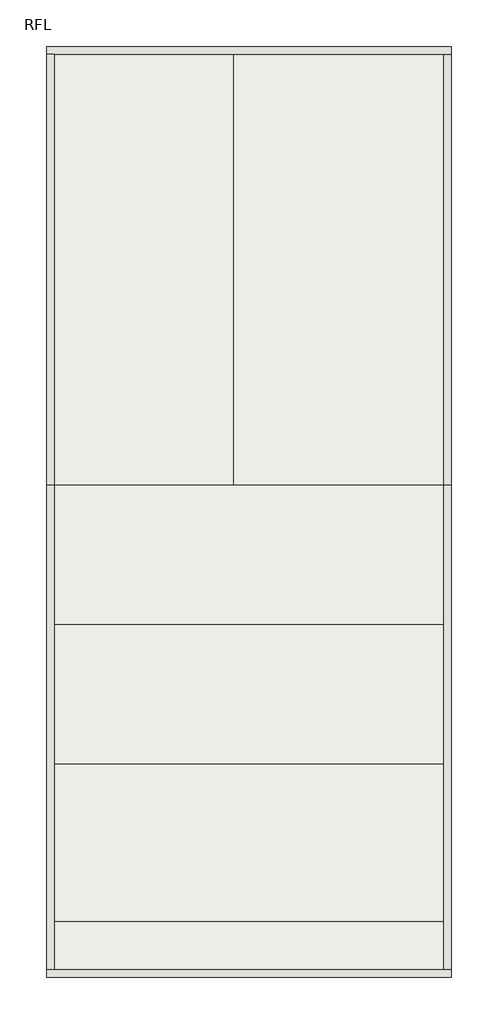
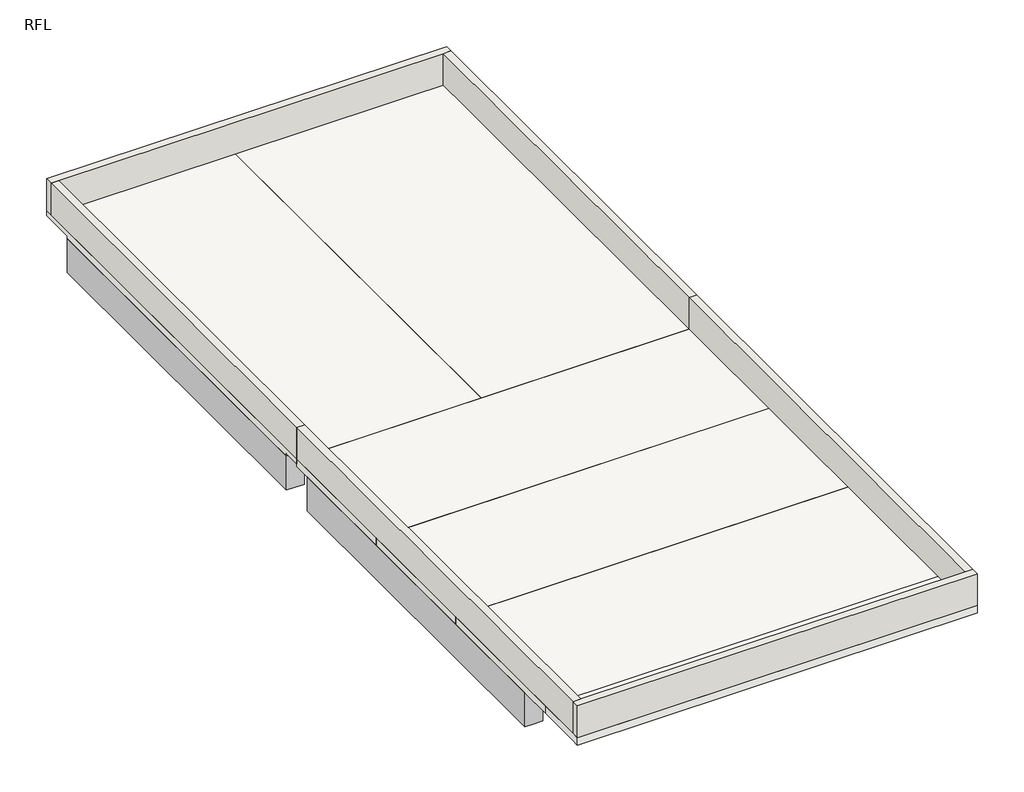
# One storey: 10 beams, 6 slabs, 6 walls.
"""IFC4 building model written with IfcOpenShell, lengths in millimetres."""

from ifc_helpers import new_model, si_unit, frame, origin, place, context, project, spatial, polyline, outline, extrude, faceted_brep, element, save

model = new_model("IFC4")

# Units and contexts
model_context = context("Model", 3, world=origin())
ifc_project = project(units=[si_unit("LENGTHUNIT", "METRE", prefix="MILLI")], contexts=[model_context])

# Site, building, storey
site = spatial("IfcSite", under=ifc_project)
building = spatial("IfcBuilding", under=site)
storey = spatial("IfcBuildingStorey", under=building, Name="RFL", Elevation=20750.0)

# Beams
placement = place(None, origin())
element("IfcBeam", 1, ObjectType="RC_B : 6G1", at=placement, inside=storey, context=model_context, shape_type="Brep", body=[
    faceted_brep([(31700.0, 24400.0, 20600.0), (31700.0, 24400.0, 19900.0), (25350.0, 24400.0, 19900.0), (25350.0, 24400.0, 20650.0), (28221.0, 24400.0, 20650.0), (28221.0, 24400.0, 20600.0), (31700.0, 24250.0, 19900.0), (31700.0, 24050.0, 19900.0), (28396.0, 24050.0, 19900.0), (28046.0, 24050.0, 19900.0), (25350.0, 24050.0, 19900.0), (25350.0, 24250.0, 19900.0), (31700.0, 24050.0, 20600.0), (28396.0, 24050.0, 20600.0), (28221.0, 24050.0, 20600.0), (28221.0, 24050.0, 20650.0), (28046.0, 24050.0, 20650.0), (25350.0, 24050.0, 20650.0), (25350.0, 24050.0, 20600.0)], [[[0, 1, 2, 3, 4, 5]], [[1, 6, 7, 8, 9, 10, 11, 2]], [[7, 12, 13, 14, 15, 16, 17, 18, 10, 9, 8]], [[15, 4, 3, 17, 16]], [[7, 6, 1, 0, 12]], [[5, 14, 13, 12, 0]], [[14, 5, 4, 15]], [[3, 2, 11, 10, 18, 17]]]),
])
element("IfcBeam", 2, ObjectType="RC_B : 6G11", at=placement, inside=storey, context=model_context, shape_type="Brep", body=[
    faceted_brep([(32050.0, 23700.0, 20600.0), (32050.0, 23700.0, 19900.0), (32050.0, 16350.0, 19900.0), (32050.0, 16350.0, 20600.0), (32250.0, 23700.0, 19900.0), (32400.0, 23700.0, 19900.0), (32400.0, 16350.0, 19900.0), (32250.0, 16350.0, 19900.0), (32400.0, 23700.0, 20600.0), (32400.0, 16350.0, 20600.0)], [[[0, 1, 2, 3]], [[1, 4, 5, 6, 7, 2]], [[5, 8, 9, 6]], [[5, 4, 1, 0, 8]], [[8, 0, 3, 9]], [[3, 2, 7, 6, 9]]]),
])
element("IfcBeam", 3, ObjectType="RC_B : 6G11", at=placement, inside=storey, context=model_context, shape_type="Brep", body=[
    faceted_brep([(32050.0, 16000.0, 19900.0), (32050.0, 15650.0, 19900.0), (32050.0, 13675.0, 19900.0), (32050.0, 13325.0, 19900.0), (32050.0, 10925.0, 19900.0), (32050.0, 10575.0, 19900.0), (32050.0, 8350.0, 19900.0), (32050.0, 8000.0, 19900.0), (32050.0, 8000.0, 20600.0), (32050.0, 8350.0, 20600.0), (32050.0, 10575.0, 20600.0), (32050.0, 10925.0, 20600.0), (32050.0, 13325.0, 20600.0), (32050.0, 13675.0, 20600.0), (32050.0, 15650.0, 20600.0), (32050.0, 16000.0, 20600.0), (32400.0, 16000.0, 19900.0), (32400.0, 15650.0, 19900.0), (32400.0, 8350.0, 19900.0), (32400.0, 8000.0, 19900.0), (32400.0, 16000.0, 20600.0), (32400.0, 13328.0, 20600.0), (32400.0, 10664.0, 20600.0), (32400.0, 8000.0, 20600.0)], [[[0, 1, 2, 3, 4, 5, 6, 7, 8, 9, 10, 11, 12, 13, 14, 15]], [[7, 6, 5, 4, 3, 2, 1, 0, 16, 17, 18, 19]], [[19, 18, 17, 16, 20, 21, 22, 23]], [[16, 0, 15, 20]], [[7, 19, 23, 8]], [[8, 23, 22, 21, 20, 15, 14, 13, 12, 11, 10, 9]]]),
])
element("IfcBeam", 4, ObjectType="RC_B : 6G12", at=placement, inside=storey, context=model_context, shape_type="Brep", body=[
    faceted_brep([(24650.0, 23700.0, 20600.0), (24650.0, 23700.0, 19900.0), (24650.0, 16350.0, 19900.0), (24650.0, 16350.0, 20600.0), (24800.0, 23700.0, 19900.0), (25000.0, 23700.0, 19900.0), (25000.0, 16350.0, 19900.0), (24800.0, 16350.0, 19900.0), (25000.0, 23700.0, 20600.0), (25000.0, 16350.0, 20600.0)], [[[0, 1, 2, 3]], [[1, 4, 5, 6, 7, 2]], [[5, 8, 9, 6]], [[5, 4, 1, 0, 8]], [[8, 0, 3, 9]], [[3, 2, 7, 6, 9]]]),
])
element("IfcBeam", 5, ObjectType="RC_B : 6G12", at=placement, inside=storey, context=model_context, shape_type="Brep", body=[
    faceted_brep([(24650.0, 15650.0, 20600.0), (24650.0, 15650.0, 19900.0), (24650.0, 8350.0, 19900.0), (24650.0, 8350.0, 20600.0), (24650.0, 10664.0, 20600.0), (24650.0, 13328.0, 20600.0), (24800.0, 15650.0, 19900.0), (25000.0, 15650.0, 19900.0), (25000.0, 13675.0, 19900.0), (25000.0, 13325.0, 19900.0), (25000.0, 10925.0, 19900.0), (25000.0, 10575.0, 19900.0), (25000.0, 8350.0, 19900.0), (24800.0, 8350.0, 19900.0), (25000.0, 15650.0, 20600.0), (25000.0, 13675.0, 20600.0), (25000.0, 13325.0, 20600.0), (25000.0, 10925.0, 20600.0), (25000.0, 10575.0, 20600.0), (25000.0, 8350.0, 20600.0)], [[[0, 1, 2, 3, 4, 5]], [[1, 6, 7, 8, 9, 10, 11, 12, 13, 2]], [[7, 14, 15, 16, 17, 18, 19, 12, 11, 10, 9, 8]], [[7, 6, 1, 0, 14]], [[14, 0, 5, 4, 3, 19, 18, 17, 16, 15]], [[3, 2, 13, 12, 19]]]),
])
element("IfcBeam", 6, ObjectType="RC_B : 6G2", at=placement, inside=storey, context=model_context, shape_type="Brep", body=[
    faceted_brep([(25350.0, 16175.0, 19900.0), (25350.0, 16175.0, 20600.0), (28046.0, 16175.0, 20600.0), (28046.0, 16175.0, 19900.0), (31700.0, 16175.0, 19900.0), (31700.0, 15825.0, 19900.0), (25350.0, 15825.0, 19900.0), (28046.0, 15925.0, 19900.0), (28396.0, 15925.0, 19900.0), (28396.0, 16175.0, 19900.0), (31700.0, 15825.0, 20600.0), (25350.0, 15825.0, 20600.0), (31700.0, 16175.0, 20600.0), (31700.0, 16000.0, 20600.0), (28396.0, 16175.0, 20600.0), (28396.0, 15925.0, 20600.0), (28046.0, 15925.0, 20600.0), (28046.0, 16000.0, 20600.0), (25350.0, 16000.0, 20600.0)], [[[0, 1, 2, 3]], [[4, 5, 6, 0, 3, 7, 8, 9]], [[5, 10, 11, 6]], [[5, 4, 12, 13, 10]], [[10, 13, 12, 14, 15, 16, 17, 2, 1, 18, 11]], [[1, 0, 6, 11, 18]], [[16, 7, 3, 2, 17]], [[8, 15, 14, 9]], [[7, 16, 15, 8]], [[12, 4, 9, 14]]]),
])
element("IfcBeam", 7, ObjectType="RC_B : 6G2", at=placement, inside=storey, context=model_context, shape_type="SweptSolid", body=[
    extrude(outline(polyline([(31700.0, 8000.0), (31700.0, 7650.0), (25350.0, 7650.0), (25350.0, 8000.0), (31700.0, 8000.0)])), frame((0.0, 0.0, 19900.0), z_axis=(0.0, 0.0, 1.0), x_axis=(1.0, 0.0, 0.0)), (0.0, 0.0, 1.0), 700.0),
])
element("IfcBeam", 8, ObjectType="RC_B : B1", at=placement, inside=storey, context=model_context, shape_type="SweptSolid", body=[
    extrude(outline(polyline([(25000.0, 10575.0), (25000.0, 10925.0), (32050.0, 10925.0), (32050.0, 10575.0), (25000.0, 10575.0)])), frame((0.0, 0.0, 19900.0), z_axis=(0.0, 0.0, 1.0), x_axis=(1.0, 0.0, 0.0)), (0.0, 0.0, 1.0), 700.0),
])
element("IfcBeam", 9, ObjectType="RC_B : B1", at=placement, inside=storey, context=model_context, shape_type="SweptSolid", body=[
    extrude(outline(polyline([(25000.0, 13325.0), (25000.0, 13675.0), (32050.0, 13675.0), (32050.0, 13325.0), (25000.0, 13325.0)])), frame((0.0, 0.0, 19900.0), z_axis=(0.0, 0.0, 1.0), x_axis=(1.0, 0.0, 0.0)), (0.0, 0.0, 1.0), 700.0),
])
element("IfcBeam", 10, ObjectType="RC_B : B4", at=placement, inside=storey, context=model_context, shape_type="Brep", body=[
    faceted_brep([(28046.0, 24050.0, 20650.0), (28046.0, 24050.0, 20600.0), (28046.0, 24050.0, 19900.0), (28046.0, 16175.0, 19900.0), (28046.0, 15925.0, 19900.0), (28046.0, 15925.0, 20600.0), (28046.0, 16000.0, 20600.0), (28046.0, 16000.0, 20650.0), (28396.0, 15925.0, 19900.0), (28396.0, 24050.0, 19900.0), (28396.0, 16175.0, 19900.0), (28396.0, 24050.0, 20600.0), (28396.0, 16175.0, 20600.0), (28396.0, 15925.0, 20600.0), (28221.0, 16000.0, 20650.0), (28221.0, 24050.0, 20650.0), (28221.0, 24050.0, 20600.0), (28221.0, 16000.0, 20600.0)], [[[0, 1, 2, 3, 4, 5, 6, 7]], [[8, 4, 3, 2, 9, 10]], [[11, 12, 13, 8, 10, 9]], [[14, 15, 0, 7]], [[4, 8, 13, 5]], [[2, 1, 0, 15, 16, 11, 9]], [[16, 17, 6, 5, 13, 12, 11]], [[17, 16, 15, 14]], [[6, 17, 14, 7]]]),
])

# Slabs
element("IfcSlab", 11, ObjectType="CS1", at=placement, inside=storey, context=model_context, shape_type="Brep", body=[
    faceted_brep([(32400.0, 6580.0, 20600.0), (24650.0, 6580.0, 20600.0), (24650.0, 6730.0, 20600.0), (24650.0, 7650.0, 20600.0), (24800.0, 7650.0, 20600.0), (32250.0, 7650.0, 20600.0), (32400.0, 7650.0, 20600.0), (32400.0, 6730.0, 20600.0), (32400.0, 6580.0, 20750.0), (32400.0, 6730.0, 20750.0), (32400.0, 7650.0, 20750.0), (24650.0, 7650.0, 20750.0), (24650.0, 6730.0, 20750.0), (24650.0, 6580.0, 20750.0)], [[[0, 1, 2, 3, 4, 5, 6, 7]], [[8, 9, 10, 11, 12, 13]], [[1, 0, 8, 13]], [[3, 2, 1, 13, 12, 11]], [[6, 5, 4, 3, 11, 10]], [[0, 7, 6, 10, 9, 8]]]),
])
element("IfcSlab", 12, ObjectType="S2", at=placement, inside=storey, context=model_context, shape_type="Brep", body=[
    faceted_brep([(25350.0, 16000.0, 20600.0), (25350.0, 16175.0, 20600.0), (25350.0, 16350.0, 20600.0), (25000.0, 16350.0, 20600.0), (24650.0, 16350.0, 20600.0), (24650.0, 23700.0, 20600.0), (25000.0, 23700.0, 20600.0), (25350.0, 23700.0, 20600.0), (25350.0, 24050.0, 20600.0), (28046.0, 24050.0, 20600.0), (28046.0, 16175.0, 20600.0), (28046.0, 16000.0, 20600.0), (24650.0, 16000.0, 20750.0), (24800.0, 16000.0, 20750.0), (28221.0, 16000.0, 20750.0), (28221.0, 24400.0, 20750.0), (24650.0, 24400.0, 20750.0), (24650.0, 24250.0, 20750.0), (24650.0, 16000.0, 20650.0), (25350.0, 16000.0, 20650.0), (28046.0, 16000.0, 20650.0), (28221.0, 16000.0, 20650.0), (24650.0, 24400.0, 20650.0), (24650.0, 23700.0, 20650.0), (24650.0, 16350.0, 20650.0), (28221.0, 24400.0, 20650.0), (25350.0, 24400.0, 20650.0), (28221.0, 24050.0, 20650.0), (25350.0, 16350.0, 20650.0), (25350.0, 23700.0, 20650.0), (25350.0, 24050.0, 20650.0), (28046.0, 24050.0, 20650.0)], [[[0, 1, 2, 3, 4, 5, 6, 7, 8, 9, 10, 11]], [[12, 13, 14, 15, 16, 17]], [[14, 13, 12, 18, 19, 0, 11, 20, 21]], [[12, 17, 16, 22, 23, 5, 4, 24, 18]], [[16, 15, 25, 26, 22]], [[15, 14, 21, 27, 25]], [[28, 2, 1, 0, 19]], [[28, 24, 4, 3, 2]], [[24, 28, 19, 18]], [[7, 29, 30, 8]], [[23, 29, 7, 6, 5]], [[29, 23, 22, 26, 25, 27, 21, 20, 31, 30]], [[20, 11, 10, 9, 31]], [[30, 31, 9, 8]]]),
])
element("IfcSlab", 13, ObjectType="S2", at=placement, inside=storey, context=model_context, shape_type="Brep", body=[
    faceted_brep([(28221.0, 16000.0, 20600.0), (28221.0, 24050.0, 20600.0), (28221.0, 24400.0, 20600.0), (31700.0, 24400.0, 20600.0), (31700.0, 24050.0, 20600.0), (31700.0, 23700.0, 20600.0), (32050.0, 23700.0, 20600.0), (32400.0, 23700.0, 20600.0), (32400.0, 16350.0, 20600.0), (32050.0, 16350.0, 20600.0), (31700.0, 16350.0, 20600.0), (31700.0, 16175.0, 20600.0), (31700.0, 16000.0, 20600.0), (28221.0, 16000.0, 20750.0), (32250.0, 16000.0, 20750.0), (32400.0, 16000.0, 20750.0), (32400.0, 24250.0, 20750.0), (32400.0, 24400.0, 20750.0), (28221.0, 24400.0, 20750.0), (28221.0, 16000.0, 20650.0), (31700.0, 16000.0, 20650.0), (32400.0, 16000.0, 20650.0), (28221.0, 24400.0, 20650.0), (32400.0, 24400.0, 20650.0), (31700.0, 24400.0, 20650.0), (32400.0, 16350.0, 20650.0), (32400.0, 23700.0, 20650.0), (31700.0, 16350.0, 20650.0), (31700.0, 23700.0, 20650.0)], [[[0, 1, 2, 3, 4, 5, 6, 7, 8, 9, 10, 11, 12]], [[13, 14, 15, 16, 17, 18]], [[15, 14, 13, 19, 0, 12, 20, 21]], [[2, 1, 0, 19, 13, 18, 22]], [[18, 17, 23, 24, 3, 2, 22]], [[17, 16, 15, 21, 25, 8, 7, 26, 23]], [[10, 27, 20, 12, 11]], [[25, 27, 10, 9, 8]], [[27, 25, 21, 20]], [[28, 26, 7, 6, 5]], [[24, 28, 5, 4, 3]], [[26, 28, 24, 23]]]),
])
element("IfcSlab", 14, ObjectType="S2", at=placement, inside=storey, context=model_context, shape_type="Brep", body=[
    faceted_brep([(32400.0, 7650.0, 20600.0), (31700.0, 7650.0, 20600.0), (25350.0, 7650.0, 20600.0), (24650.0, 7650.0, 20600.0), (24650.0, 8350.0, 20600.0), (24650.0, 10664.0, 20600.0), (32400.0, 10664.0, 20600.0), (32400.0, 8000.0, 20600.0), (32400.0, 7650.0, 20750.0), (32400.0, 10664.0, 20750.0), (24650.0, 10664.0, 20750.0), (24650.0, 7650.0, 20750.0)], [[[0, 1, 2, 3, 4, 5, 6, 7]], [[8, 9, 10, 11]], [[3, 2, 1, 0, 8, 11]], [[5, 4, 3, 11, 10]], [[6, 5, 10, 9]], [[0, 7, 6, 9, 8]]]),
])
element("IfcSlab", 15, ObjectType="S2", at=placement, inside=storey, context=model_context, shape_type="SweptSolid", body=[
    extrude(outline(polyline([(32400.0, 13328.0), (32400.0, 10664.0), (24650.0, 10664.0), (24650.0, 13328.0), (32400.0, 13328.0)])), frame((0.0, 0.0, 20600.0), z_axis=(0.0, 0.0, 1.0), x_axis=(1.0, 0.0, 0.0)), (0.0, 0.0, 1.0), 150.0),
])
element("IfcSlab", 16, ObjectType="S2", at=placement, inside=storey, context=model_context, shape_type="Brep", body=[
    faceted_brep([(32400.0, 16000.0, 20600.0), (32400.0, 13328.0, 20600.0), (24650.0, 13328.0, 20600.0), (24650.0, 15650.0, 20600.0), (24650.0, 16000.0, 20600.0), (25350.0, 16000.0, 20600.0), (28046.0, 16000.0, 20600.0), (28221.0, 16000.0, 20600.0), (31700.0, 16000.0, 20600.0), (32050.0, 16000.0, 20600.0), (32400.0, 16000.0, 20750.0), (32250.0, 16000.0, 20750.0), (28221.0, 16000.0, 20750.0), (24800.0, 16000.0, 20750.0), (24650.0, 16000.0, 20750.0), (24650.0, 13328.0, 20750.0), (32400.0, 13328.0, 20750.0), (32400.0, 16000.0, 20650.0), (24650.0, 16000.0, 20650.0)], [[[0, 1, 2, 3, 4, 5, 6, 7, 8, 9]], [[10, 11, 12, 13, 14, 15, 16]], [[1, 0, 17, 10, 16]], [[2, 1, 16, 15]], [[4, 3, 2, 15, 14, 18]], [[0, 9, 8, 7, 6, 5, 4, 18, 14, 13, 12, 11, 10, 17]]]),
])

# Walls
element("IfcWall", 17, ObjectType="W15", at=placement, inside=storey, context=model_context, shape_type="Brep", body=[
    faceted_brep([(24650.0, 24400.0, 21400.0), (32400.0, 24400.0, 21400.0), (32400.0, 24400.0, 20750.0), (28221.0, 24400.0, 20750.0), (24650.0, 24400.0, 20750.0), (32400.0, 24250.0, 21400.0), (32250.0, 24250.0, 21400.0), (24800.0, 24250.0, 21400.0), (24650.0, 24250.0, 21400.0), (24650.0, 24250.0, 20750.0), (24800.0, 24250.0, 20750.0), (32250.0, 24250.0, 20750.0), (32400.0, 24250.0, 20750.0)], [[[0, 1, 2, 3, 4]], [[5, 6, 7, 8, 9, 10, 11, 12]], [[1, 0, 8, 7, 6, 5]], [[1, 5, 12, 2]], [[8, 0, 4, 9]], [[2, 12, 11, 10, 9, 4, 3]]]),
])
element("IfcWall", 18, ObjectType="W15", at=placement, inside=storey, context=model_context, shape_type="SweptSolid", body=[
    extrude(outline(polyline([(32250.0, 16000.0), (32250.0, 24250.0), (32400.0, 24250.0), (32400.0, 16000.0), (32250.0, 16000.0)])), frame((0.0, 0.0, 20750.0), z_axis=(0.0, 0.0, 1.0), x_axis=(1.0, 0.0, 0.0)), (0.0, 0.0, 1.0), 650.0),
])
element("IfcWall", 19, ObjectType="W15", at=placement, inside=storey, context=model_context, shape_type="SweptSolid", body=[
    extrude(outline(polyline([(24650.0, 16000.0), (24650.0, 24250.0), (24800.0, 24250.0), (24800.0, 16000.0), (24650.0, 16000.0)])), frame((0.0, 0.0, 20750.0), z_axis=(0.0, 0.0, 1.0), x_axis=(1.0, 0.0, 0.0)), (0.0, 0.0, 1.0), 650.0),
])
element("IfcWall", 20, ObjectType="W15", at=placement, inside=storey, context=model_context, shape_type="Brep", body=[
    faceted_brep([(24650.0, 6730.0, 21400.0), (24800.0, 6730.0, 21400.0), (32250.0, 6730.0, 21400.0), (32400.0, 6730.0, 21400.0), (32400.0, 6730.0, 20750.0), (32250.0, 6730.0, 20750.0), (24800.0, 6730.0, 20750.0), (24650.0, 6730.0, 20750.0), (32400.0, 6580.0, 21400.0), (24650.0, 6580.0, 21400.0), (24650.0, 6580.0, 20750.0), (32400.0, 6580.0, 20750.0)], [[[0, 1, 2, 3, 4, 5, 6, 7]], [[8, 9, 10, 11]], [[3, 2, 1, 0, 9, 8]], [[9, 0, 7, 10]], [[3, 8, 11, 4]], [[7, 6, 5, 4, 11, 10]]]),
])
element("IfcWall", 21, ObjectType="W15", at=placement, inside=storey, context=model_context, shape_type="Brep", body=[
    faceted_brep([(32250.0, 6730.0, 21400.0), (32250.0, 16000.0, 21400.0), (32250.0, 16000.0, 20750.0), (32250.0, 6730.0, 20750.0), (32400.0, 16000.0, 21400.0), (32400.0, 6730.0, 21400.0), (32400.0, 6730.0, 20750.0), (32400.0, 7650.0, 20750.0), (32400.0, 10664.0, 20750.0), (32400.0, 13328.0, 20750.0), (32400.0, 16000.0, 20750.0)], [[[0, 1, 2, 3]], [[4, 5, 6, 7, 8, 9, 10]], [[1, 0, 5, 4]], [[1, 4, 10, 2]], [[2, 10, 9, 8, 7, 6, 3]], [[5, 0, 3, 6]]]),
])
element("IfcWall", 22, ObjectType="W15", at=placement, inside=storey, context=model_context, shape_type="Brep", body=[
    faceted_brep([(24650.0, 6730.0, 21400.0), (24650.0, 16000.0, 21400.0), (24650.0, 16000.0, 20750.0), (24650.0, 13328.0, 20750.0), (24650.0, 10664.0, 20750.0), (24650.0, 7650.0, 20750.0), (24650.0, 6730.0, 20750.0), (24800.0, 16000.0, 21400.0), (24800.0, 6730.0, 21400.0), (24800.0, 6730.0, 20750.0), (24800.0, 16000.0, 20750.0)], [[[0, 1, 2, 3, 4, 5, 6]], [[7, 8, 9, 10]], [[1, 0, 8, 7]], [[1, 7, 10, 2]], [[8, 0, 6, 9]], [[2, 10, 9, 6, 5, 4, 3]]]),
])

save(model, "model.ifc")
